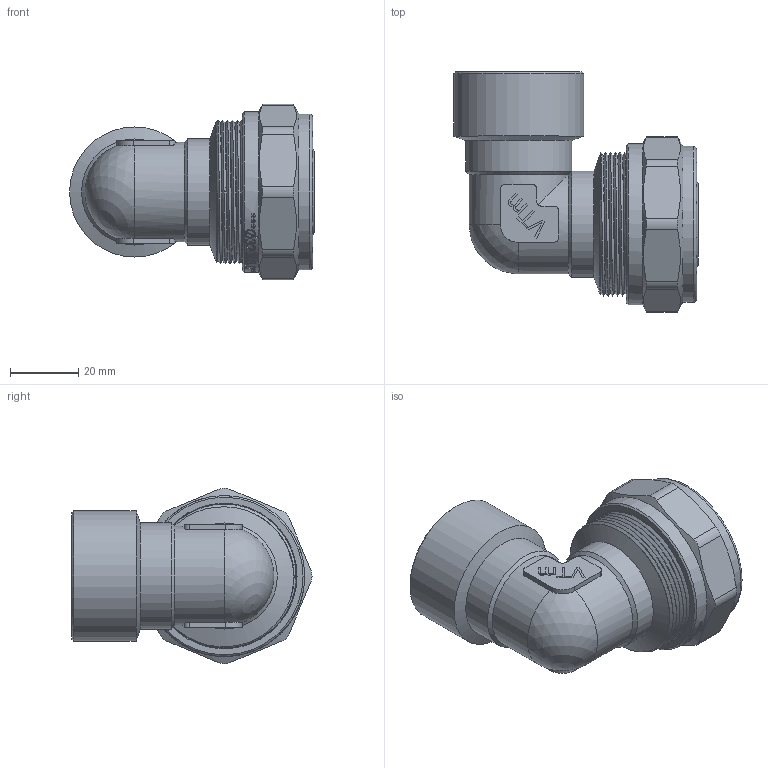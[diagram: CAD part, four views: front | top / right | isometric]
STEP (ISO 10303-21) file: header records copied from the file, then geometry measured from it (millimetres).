
FILE_DESCRIPTION(/* description */ (''),/* implementation_level */ '2;1');
FILE_NAME(/* name */ 'F:\Артём\00000\Работа удаленка\Обжимные фитинги\VTm.352.N.003206.stp',/* time_stamp */ '2020-08-06T13:22:19+03:00',/* author */ ('almis'),/* organization */ (''),/* preprocessor_version */ 'ST-DEVELOPER v18',/* originating_system */ 'Autodesk Inventor 2020',/* authorisation */ '');
FILE_SCHEMA (('AUTOMOTIVE_DESIGN { 1 0 10303 214 3 1 1 }'));
Length unit declared in the file: millimetre
Products named in the file (1): VTm.301.N.003206
Bounding box: 71.5 x 70.15 x 51.3 mm (x, y, z)
Volume: 51579.2 mm3; surface area: 33023 mm2
Topology: 1 solids, 1 shells, 790 faces, 2239 edges, 1504 vertices
Faces by surface type: bspline 395, plane 240, cylinder 108, torus 24, cone 21, sphere 2
Full cylindrical faces by diameter (mm): 20 x1, 23.4 x2, 24.5 x1, 25.75 x5, 29 x2, 30.3 x5, 30.538 x4, 31 x2, 31.683 x5, 32.2 x1, 32.7 x1, 34.9 x6, 35.5 x1, 38 x1, 40.38 x7, 40.5 x1, 45.5 x1, 47 x1
Entity records: 34946 total; most frequent: CARTESIAN_POINT 17003, ORIENTED_EDGE 4474, DIRECTION 2451, EDGE_CURVE 2237, VERTEX_POINT 1504, LINE 1007, VECTOR 1007, B_SPLINE_CURVE_WITH_KNOTS 888
